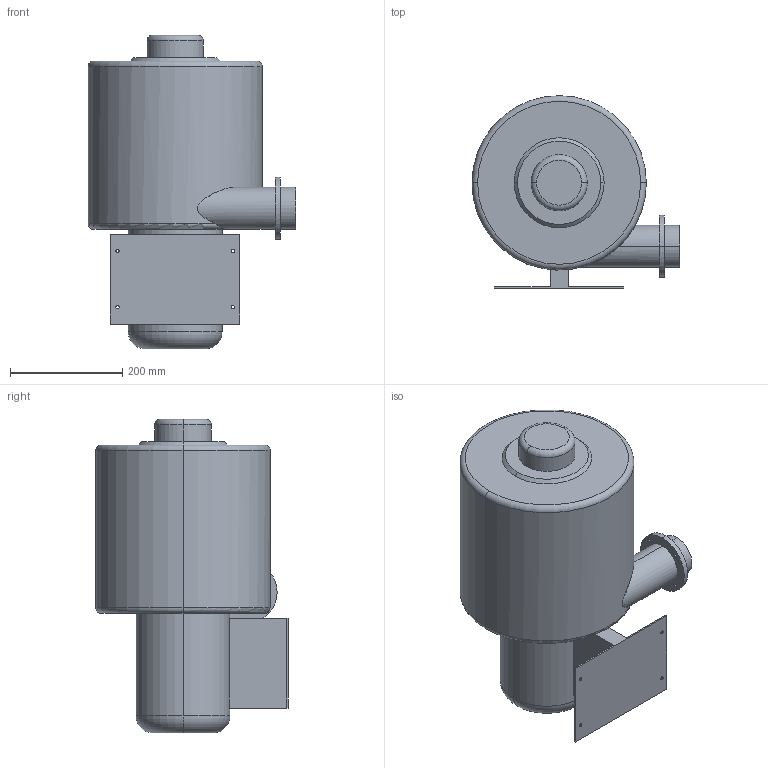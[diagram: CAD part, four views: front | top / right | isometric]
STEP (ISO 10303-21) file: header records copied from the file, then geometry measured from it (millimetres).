
FILE_DESCRIPTION (( 'STEP AP203' ), '1' );
FILE_NAME ('750-75-4.STEP', '2019-05-09T03:29:09', ( 'User' ), ( 'www.dadighost.com' ), 'SwSTEP 2.0', 'SolidWorks 2014', '' );
FILE_SCHEMA (( 'CONFIG_CONTROL_DESIGN' ));
Length unit declared in the file: millimetre
Products named in the file (1): 750-75-4
Bounding box: 370 x 342 x 558 mm (x, y, z)
Volume: 28251175 mm3; surface area: 721326.4 mm2
Topology: 1 solids, 1 shells, 60 faces, 143 edges, 92 vertices
Faces by surface type: cylinder 31, plane 17, torus 10, cone 2
Entity records: 2196 total; most frequent: CARTESIAN_POINT 631, DIRECTION 338, ORIENTED_EDGE 286, EDGE_CURVE 143, AXIS2_PLACEMENT_3D 142, VERTEX_POINT 92, EDGE_LOOP 83, CIRCLE 81
